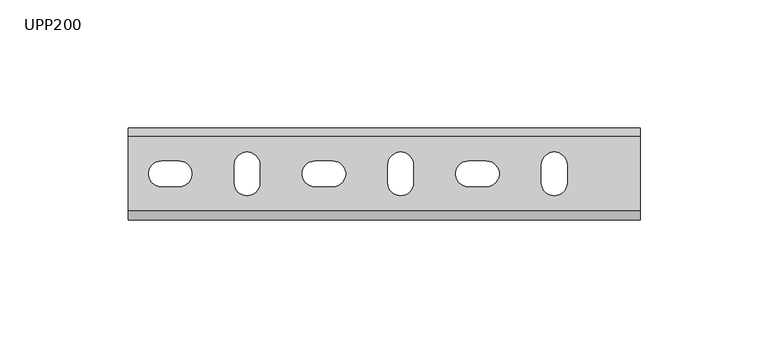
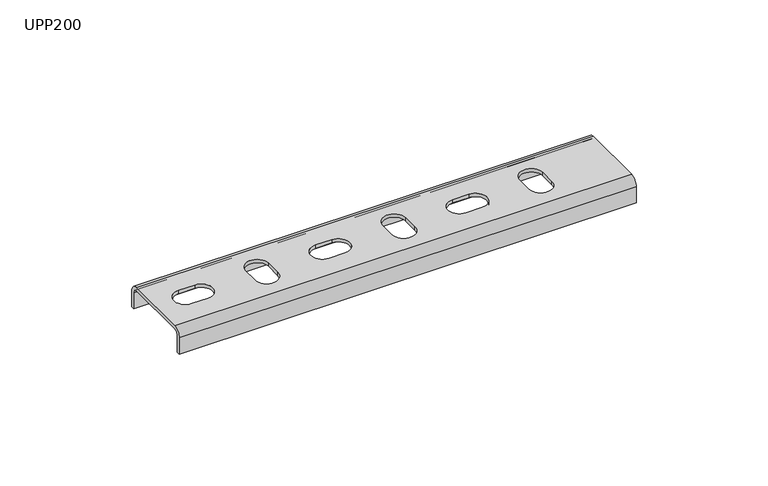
"""IFC4 building model written with IfcOpenShell, lengths in millimetres: proxy geometry, КМ Профиль_Универсальный поддерживающий профиль UPP : UPP200."""

from ifc_helpers import new_model, si_unit, frame, origin, place, context, project, spatial, polyline, circle_curve, source, transform, mapped, element, save
from ifc_brep_helpers import plane_surface, cylinder_surface, revolved_surface, advanced_brep


def upp200_35eb6cb5(model_context):
    return source(origin(), model_context, "Body", "AdvancedBrep", [
        advanced_brep(
        [(0.0, 16.5, -3.5), (0.0, 14.5, -1.5), (0.0, -14.5, -1.5), (0.0, -16.5, -3.5), (0.0, -16.5, -11.0), (0.0, -18.0, -11.0), (0.0, -18.0, -3.5), (0.0, -14.5, 0.0), (0.0, 14.5, 0.0), (0.0, 18.0, -3.5), (0.0, 18.0, -11.0), (0.0, 16.5, -11.0), (200.0, 14.5, -1.5), (200.0, 16.5, -3.5), (200.0, 16.5, -11.0), (200.0, 18.0, -11.0), (200.0, 18.0, -3.5), (200.0, 14.5, 0.0), (200.0, -14.5, 0.0), (200.0, -18.0, -3.5), (200.0, -18.0, -11.0), (200.0, -16.5, -11.0), (200.0, -16.5, -3.5), (200.0, -14.5, -1.5), (80.0, 5.0, -1.5), (73.0, 5.0, -1.5), (73.0, -5.0, -1.5), (80.0, -5.0, -1.5), (140.0, 5.0, -1.5), (133.0, 5.0, -1.5), (133.0, -5.0, -1.5), (140.0, -5.0, -1.5), (101.5, 3.5, -1.5), (101.5, -3.5, -1.5), (111.5, -3.5, -1.5), (111.5, 3.5, -1.5), (161.5, 3.5, -1.5), (161.5, -3.5, -1.5), (171.5, -3.5, -1.5), (171.5, 3.5, -1.5), (41.5, 3.5, -1.5), (41.5, -3.5, -1.5), (51.5, -3.5, -1.5), (51.5, 3.5, -1.5), (20.0, 5.0, -1.5), (13.0, 5.0, -1.5), (13.0, -5.0, -1.5), (20.0, -5.0, -1.5), (73.0, 5.0, 0.0), (80.0, 5.0, 0.0), (80.0, -5.0, 0.0), (73.0, -5.0, 0.0), (133.0, 5.0, 0.0), (140.0, 5.0, 0.0), (140.0, -5.0, 0.0), (133.0, -5.0, 0.0), (101.5, -3.5, 0.0), (101.5, 3.5, 0.0), (111.5, 3.5, 0.0), (111.5, -3.5, 0.0), (161.5, -3.5, 0.0), (161.5, 3.5, 0.0), (171.5, 3.5, 0.0), (171.5, -3.5, 0.0), (41.5, -3.5, 0.0), (41.5, 3.5, 0.0), (51.5, 3.5, 0.0), (51.5, -3.5, 0.0), (13.0, 5.0, 0.0), (20.0, 5.0, 0.0), (20.0, -5.0, 0.0), (13.0, -5.0, 0.0)],
        [
            (0, 1, circle_curve(frame((0.0, 14.5, -3.5), z_axis=(1.0, 0.0, 0.0), x_axis=(0.0, 1.0, 0.0)), 2.0)),
            (1, 2),
            (2, 3, circle_curve(frame((0.0, -14.5, -3.5), z_axis=(1.0, 0.0, 0.0), x_axis=(0.0, 1.0, 0.0)), 2.0)),
            (3, 4),
            (4, 5),
            (5, 6),
            (6, 7, circle_curve(frame((0.0, -14.5, -3.5), z_axis=(-1.0, 0.0, 0.0), x_axis=(0.0, 1.0, 0.0)), 3.5)),
            (7, 8),
            (8, 9, circle_curve(frame((0.0, 14.5, -3.5), z_axis=(-1.0, 0.0, 0.0), x_axis=(0.0, 1.0, 0.0)), 3.5)),
            (9, 10),
            (10, 11),
            (11, 0),
            (12, 13, circle_curve(frame((200.0, 14.5, -3.5), z_axis=(-1.0, 0.0, 0.0), x_axis=(0.0, 1.0, 0.0)), 2.0)),
            (13, 14),
            (14, 15),
            (15, 16),
            (16, 17, circle_curve(frame((200.0, 14.5, -3.5), z_axis=(1.0, 0.0, 0.0), x_axis=(0.0, 1.0, 0.0)), 3.5)),
            (17, 18),
            (18, 19, circle_curve(frame((200.0, -14.5, -3.5), z_axis=(1.0, 0.0, 0.0), x_axis=(0.0, 1.0, 0.0)), 3.5)),
            (19, 20),
            (20, 21),
            (21, 22),
            (22, 23, circle_curve(frame((200.0, -14.5, -3.5), z_axis=(-1.0, 0.0, 0.0), x_axis=(0.0, 1.0, 0.0)), 2.0)),
            (23, 12),
            (0, 13),
            (12, 1),
            (23, 2),
            (24, 25),
            (25, 26, circle_curve(frame((73.0, 0.0, -1.5), z_axis=(0.0, 0.0, 1.0), x_axis=(1.0, 0.0, 0.0)), 5.0)),
            (26, 27),
            (27, 24, circle_curve(frame((80.0, 0.0, -1.5), z_axis=(0.0, 0.0, 1.0), x_axis=(1.0, 0.0, 0.0)), 5.0)),
            (28, 29),
            (29, 30, circle_curve(frame((133.0, 0.0, -1.5), z_axis=(0.0, 0.0, 1.0), x_axis=(1.0, 0.0, 0.0)), 5.0)),
            (30, 31),
            (31, 28, circle_curve(frame((140.0, 0.0, -1.5), z_axis=(0.0, 0.0, 1.0), x_axis=(1.0, 0.0, 0.0)), 5.0)),
            (32, 33),
            (33, 34, circle_curve(frame((106.5, -3.5, -1.5), z_axis=(0.0, 0.0, 1.0), x_axis=(0.0, 1.0, 0.0)), 5.0)),
            (34, 35),
            (35, 32, circle_curve(frame((106.5, 3.5, -1.5), z_axis=(0.0, 0.0, 1.0), x_axis=(0.0, 1.0, 0.0)), 5.0)),
            (36, 37),
            (37, 38, circle_curve(frame((166.5, -3.5, -1.5), z_axis=(0.0, 0.0, 1.0), x_axis=(0.0, 1.0, 0.0)), 5.0)),
            (38, 39),
            (39, 36, circle_curve(frame((166.5, 3.5, -1.5), z_axis=(0.0, 0.0, 1.0), x_axis=(0.0, 1.0, 0.0)), 5.0)),
            (40, 41),
            (41, 42, circle_curve(frame((46.5, -3.5, -1.5), z_axis=(0.0, 0.0, 1.0), x_axis=(0.0, 1.0, 0.0)), 5.0)),
            (42, 43),
            (43, 40, circle_curve(frame((46.5, 3.5, -1.5), z_axis=(0.0, 0.0, 1.0), x_axis=(0.0, 1.0, 0.0)), 5.0)),
            (44, 45),
            (45, 46, circle_curve(frame((13.0, 0.0, -1.5), z_axis=(0.0, 0.0, 1.0), x_axis=(1.0, 0.0, 0.0)), 5.0)),
            (46, 47),
            (47, 44, circle_curve(frame((20.0, 0.0, -1.5), z_axis=(0.0, 0.0, 1.0), x_axis=(1.0, 0.0, 0.0)), 5.0)),
            (22, 3),
            (21, 4),
            (20, 5),
            (19, 6),
            (18, 7),
            (17, 8),
            (48, 49),
            (49, 50, circle_curve(frame((80.0, 0.0, 0.0), z_axis=(0.0, 0.0, -1.0), x_axis=(1.0, 0.0, 0.0)), 5.0)),
            (50, 51),
            (51, 48, circle_curve(frame((73.0, 0.0, 0.0), z_axis=(0.0, 0.0, -1.0), x_axis=(1.0, 0.0, 0.0)), 5.0)),
            (52, 53),
            (53, 54, circle_curve(frame((140.0, 0.0, 0.0), z_axis=(0.0, 0.0, -1.0), x_axis=(1.0, 0.0, 0.0)), 5.0)),
            (54, 55),
            (55, 52, circle_curve(frame((133.0, 0.0, 0.0), z_axis=(0.0, 0.0, -1.0), x_axis=(1.0, 0.0, 0.0)), 5.0)),
            (56, 57),
            (57, 58, circle_curve(frame((106.5, 3.5, 0.0), z_axis=(0.0, 0.0, -1.0), x_axis=(0.0, 1.0, 0.0)), 5.0)),
            (58, 59),
            (59, 56, circle_curve(frame((106.5, -3.5, 0.0), z_axis=(0.0, 0.0, -1.0), x_axis=(0.0, 1.0, 0.0)), 5.0)),
            (60, 61),
            (61, 62, circle_curve(frame((166.5, 3.5, 0.0), z_axis=(0.0, 0.0, -1.0), x_axis=(0.0, 1.0, 0.0)), 5.0)),
            (62, 63),
            (63, 60, circle_curve(frame((166.5, -3.5, 0.0), z_axis=(0.0, 0.0, -1.0), x_axis=(0.0, 1.0, 0.0)), 5.0)),
            (64, 65),
            (65, 66, circle_curve(frame((46.5, 3.5, 0.0), z_axis=(0.0, 0.0, -1.0), x_axis=(0.0, 1.0, 0.0)), 5.0)),
            (66, 67),
            (67, 64, circle_curve(frame((46.5, -3.5, 0.0), z_axis=(0.0, 0.0, -1.0), x_axis=(0.0, 1.0, 0.0)), 5.0)),
            (68, 69),
            (69, 70, circle_curve(frame((20.0, 0.0, 0.0), z_axis=(0.0, 0.0, -1.0), x_axis=(1.0, 0.0, 0.0)), 5.0)),
            (70, 71),
            (71, 68, circle_curve(frame((13.0, 0.0, 0.0), z_axis=(0.0, 0.0, -1.0), x_axis=(1.0, 0.0, 0.0)), 5.0)),
            (16, 9),
            (15, 10),
            (14, 11),
            (48, 25),
            (24, 49),
            (51, 26),
            (50, 27),
            (52, 29),
            (28, 53),
            (55, 30),
            (54, 31),
            (56, 33),
            (32, 57),
            (59, 34),
            (58, 35),
            (60, 37),
            (36, 61),
            (63, 38),
            (62, 39),
            (64, 41),
            (40, 65),
            (67, 42),
            (66, 43),
            (68, 45),
            (44, 69),
            (71, 46),
            (70, 47),
        ],
        [
            plane_surface(frame((0.0, 0.0, 0.0), z_axis=(-1.0, 0.0, 0.0), x_axis=(0.0, 0.0, 1.0))),
            plane_surface(frame((200.0, 0.0, 0.0), z_axis=(1.0, 0.0, 0.0), x_axis=(0.0, 0.0, 1.0))),
            revolved_surface(polyline([(200.0, 16.5, -3.5), (0.0, 16.5, -3.5)]), (0.0, 14.5, -3.5), (1.0, 0.0, 0.0)),
            plane_surface(frame((0.0, 14.5, -1.5), z_axis=(0.0, 0.0, -1.0), x_axis=(1.0, 0.0, 0.0))),
            revolved_surface(polyline([(200.0, -12.5, -3.5), (0.0, -12.5, -3.5)]), (0.0, -14.5, -3.5), (1.0, 0.0, 0.0)),
            plane_surface(frame((0.0, -16.5, -3.5), z_axis=(0.0, 1.0, 0.0), x_axis=(1.0, 0.0, 0.0))),
            plane_surface(frame((0.0, -16.5, -11.0), z_axis=(0.0, 0.0, -1.0), x_axis=(1.0, 0.0, 0.0))),
            plane_surface(frame((0.0, -18.0, -11.0), z_axis=(0.0, -1.0, 0.0), x_axis=(1.0, 0.0, 0.0))),
            cylinder_surface(frame((0.0, -14.5, -3.5), z_axis=(-1.0, 0.0, 0.0), x_axis=(0.0, 1.0, 0.0)), 3.5),
            plane_surface(frame((0.0, -14.5, 0.0), z_axis=(0.0, 0.0, 1.0), x_axis=(1.0, 0.0, 0.0))),
            cylinder_surface(frame((0.0, 14.5, -3.5), z_axis=(-1.0, 0.0, 0.0), x_axis=(0.0, 1.0, 0.0)), 3.5),
            plane_surface(frame((0.0, 18.0, -3.5), z_axis=(0.0, 1.0, 0.0), x_axis=(1.0, 0.0, 0.0))),
            plane_surface(frame((0.0, 18.0, -11.0), z_axis=(0.0, 0.0, -1.0), x_axis=(1.0, 0.0, 0.0))),
            plane_surface(frame((0.0, 16.5, -11.0), z_axis=(0.0, -1.0, 0.0), x_axis=(1.0, 0.0, 0.0))),
            plane_surface(frame((80.0, 5.0, 0.0), z_axis=(0.0, -1.0, 0.0), x_axis=(0.0, 0.0, -1.0))),
            revolved_surface(polyline([(78.0, 0.0, 0.0), (78.0, 0.0, -1.5)]), (73.0, 0.0, -1.5), (0.0, 0.0, 1.0)),
            plane_surface(frame((73.0, -5.0, 0.0), z_axis=(0.0, 1.0, 0.0), x_axis=(0.0, 0.0, -1.0))),
            revolved_surface(polyline([(85.0, 0.0, 0.0), (85.0, 0.0, -1.5)]), (80.0, 0.0, -1.5), (0.0, 0.0, 1.0)),
            plane_surface(frame((140.0, 5.0, 0.0), z_axis=(0.0, -1.0, 0.0), x_axis=(0.0, 0.0, -1.0))),
            revolved_surface(polyline([(138.0, 0.0, 0.0), (138.0, 0.0, -1.5)]), (133.0, 0.0, -1.5), (0.0, 0.0, 1.0)),
            plane_surface(frame((133.0, -5.0, 0.0), z_axis=(0.0, 1.0, 0.0), x_axis=(0.0, 0.0, -1.0))),
            revolved_surface(polyline([(145.0, 0.0, 0.0), (145.0, 0.0, -1.5)]), (140.0, 0.0, -1.5), (0.0, 0.0, 1.0)),
            plane_surface(frame((101.5, 3.5, 0.0), z_axis=(1.0, 0.0, 0.0), x_axis=(0.0, 0.0, -1.0))),
            revolved_surface(polyline([(106.5, 1.5, 0.0), (106.5, 1.5, -1.5)]), (106.5, -3.5, -1.5), (0.0, 0.0, 1.0)),
            plane_surface(frame((111.5, -3.5, 0.0), z_axis=(-1.0, 0.0, 0.0), x_axis=(0.0, 0.0, -1.0))),
            revolved_surface(polyline([(106.5, 8.5, 0.0), (106.5, 8.5, -1.5)]), (106.5, 3.5, -1.5), (0.0, 0.0, 1.0)),
            plane_surface(frame((161.5, 3.5, 0.0), z_axis=(1.0, 0.0, 0.0), x_axis=(0.0, 0.0, -1.0))),
            revolved_surface(polyline([(166.5, 1.5, 0.0), (166.5, 1.5, -1.5)]), (166.5, -3.5, -1.5), (0.0, 0.0, 1.0)),
            plane_surface(frame((171.5, -3.5, 0.0), z_axis=(-1.0, 0.0, 0.0), x_axis=(0.0, 0.0, -1.0))),
            revolved_surface(polyline([(166.5, 8.5, 0.0), (166.5, 8.5, -1.5)]), (166.5, 3.5, -1.5), (0.0, 0.0, 1.0)),
            plane_surface(frame((41.5, 3.5, 0.0), z_axis=(1.0, 0.0, 0.0), x_axis=(0.0, 0.0, -1.0))),
            revolved_surface(polyline([(46.5, 1.5, 0.0), (46.5, 1.5, -1.5)]), (46.5, -3.5, -1.5), (0.0, 0.0, 1.0)),
            plane_surface(frame((51.5, -3.5, 0.0), z_axis=(-1.0, 0.0, 0.0), x_axis=(0.0, 0.0, -1.0))),
            revolved_surface(polyline([(46.5, 8.5, 0.0), (46.5, 8.5, -1.5)]), (46.5, 3.5, -1.5), (0.0, 0.0, 1.0)),
            plane_surface(frame((20.0, 5.0, 0.0), z_axis=(0.0, -1.0, 0.0), x_axis=(0.0, 0.0, -1.0))),
            revolved_surface(polyline([(18.0, 0.0, 0.0), (18.0, 0.0, -1.5)]), (13.0, 0.0, -1.5), (0.0, 0.0, 1.0)),
            plane_surface(frame((13.0, -5.0, 0.0), z_axis=(0.0, 1.0, 0.0), x_axis=(0.0, 0.0, -1.0))),
            revolved_surface(polyline([(25.0, 0.0, 0.0), (25.0, 0.0, -1.5)]), (20.0, 0.0, -1.5), (0.0, 0.0, 1.0)),
        ],
        [
            (0, [[1, 2, 3, 4, 5, 6, 7, 8, 9, 10, 11, 12]]),
            (1, [[13, 14, 15, 16, 17, 18, 19, 20, 21, 22, 23, 24]]),
            (2, [[-1, 25, -13, 26]]),
            (3, [[-2, -26, -24, 27], [28, 29, 30, 31], [32, 33, 34, 35], [36, 37, 38, 39], [40, 41, 42, 43], [44, 45, 46, 47], [48, 49, 50, 51]]),
            (4, [[-3, -27, -23, 52]]),
            (5, [[-4, -52, -22, 53]]),
            (6, [[-5, -53, -21, 54]]),
            (7, [[-6, -54, -20, 55]]),
            (8, [[-7, -55, -19, 56]]),
            (9, [[-8, -56, -18, 57], [58, 59, 60, 61], [62, 63, 64, 65], [66, 67, 68, 69], [70, 71, 72, 73], [74, 75, 76, 77], [78, 79, 80, 81]]),
            (10, [[-9, -57, -17, 82]]),
            (11, [[-10, -82, -16, 83]]),
            (12, [[-11, -83, -15, 84]]),
            (13, [[-12, -84, -14, -25]]),
            (14, [[85, -28, 86, -58]]),
            (15, [[-85, -61, 87, -29]]),
            (16, [[-87, -60, 88, -30]]),
            (17, [[-86, -31, -88, -59]]),
            (18, [[89, -32, 90, -62]]),
            (19, [[-89, -65, 91, -33]]),
            (20, [[-91, -64, 92, -34]]),
            (21, [[-90, -35, -92, -63]]),
            (22, [[93, -36, 94, -66]]),
            (23, [[-93, -69, 95, -37]]),
            (24, [[-95, -68, 96, -38]]),
            (25, [[-94, -39, -96, -67]]),
            (26, [[97, -40, 98, -70]]),
            (27, [[-97, -73, 99, -41]]),
            (28, [[-99, -72, 100, -42]]),
            (29, [[-98, -43, -100, -71]]),
            (30, [[101, -44, 102, -74]]),
            (31, [[-101, -77, 103, -45]]),
            (32, [[-103, -76, 104, -46]]),
            (33, [[-102, -47, -104, -75]]),
            (34, [[105, -48, 106, -78]]),
            (35, [[-105, -81, 107, -49]]),
            (36, [[-107, -80, 108, -50]]),
            (37, [[-106, -51, -108, -79]]),
        ],
    ),
    ])


if __name__ == "__main__":
    model = new_model("IFC4")
    model_context = context("Model", 3, world=origin())
    ifc_project = project(units=[si_unit("LENGTHUNIT", "METRE", prefix="MILLI")], contexts=[model_context])
    site = spatial("IfcSite", under=ifc_project)
    building = spatial("IfcBuilding", under=site)
    placement = place(None, origin())
    upp200_shape = upp200_35eb6cb5(model_context)
    element("IfcBuildingElementProxy", 1, Name="КМ Профиль_Универсальный поддерживающий профиль UPP : UPP200", ObjectType="КМ Профиль_Универсальный поддерживающий профиль UPP : UPP200", at=placement, inside=building, context=model_context, shape_type="MappedRepresentation", body=[
        mapped(upp200_shape, transform((0.0, 0.0, 0.0), x_axis=(1.0, 0.0, 0.0), y_axis=(0.0, 1.0, 0.0), z_axis=(0.0, 0.0, 1.0))),
    ])
    save(model, "model.ifc")
